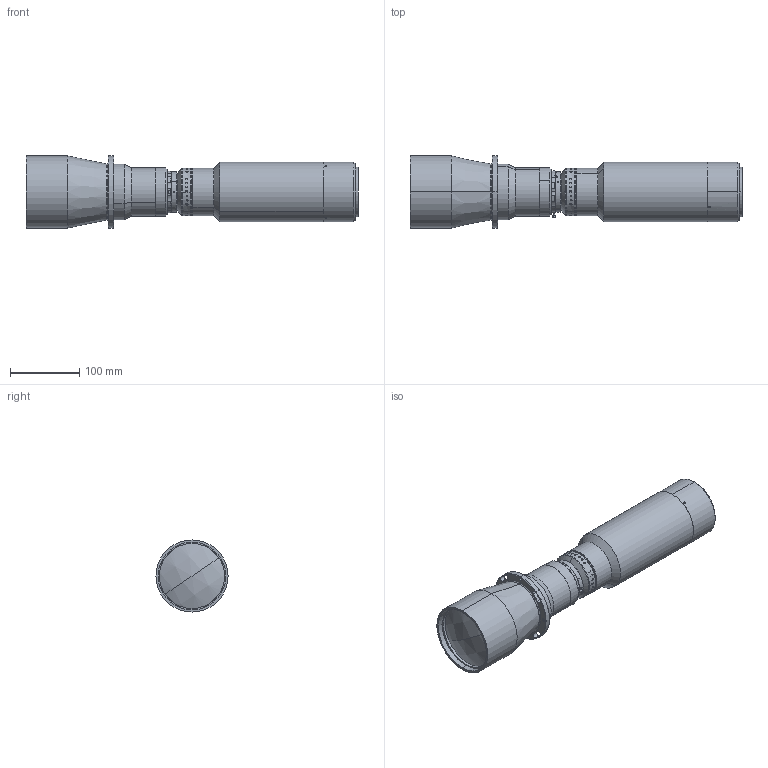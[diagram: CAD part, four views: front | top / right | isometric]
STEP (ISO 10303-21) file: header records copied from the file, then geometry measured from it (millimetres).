
FILE_DESCRIPTION (( 'STEP AP203' ), '1' );
FILE_NAME ('XF-PTL08062-M72-11.48-VI.STEP', '2020-05-09T02:30:55', ( 'puyufan' ), ( '' ), 'SwSTEP 2.0', 'SolidWorks 2014', '' );
FILE_SCHEMA (( 'CONFIG_CONTROL_DESIGN' ));
Length unit declared in the file: millimetre
Products named in the file (1): XF-PTL08062-M72-11.48-VI
Bounding box: 479.06 x 104 x 104 mm (x, y, z)
Surface area: 178812.3 mm2 (no closed solid volume)
Topology: 0 solids, 69 shells, 276 faces, 1872 edges, 1645 vertices
Faces by surface type: cylinder 183, plane 47, cone 34, bspline 6, torus 4, sphere 2
Entity records: 31194 total; most frequent: CARTESIAN_POINT 18081, DIRECTION 2474, ORIENTED_EDGE 2311, EDGE_CURVE 1872, VERTEX_POINT 1645, AXIS2_PLACEMENT_3D 968, CIRCLE 697, B_SPLINE_CURVE_WITH_KNOTS 637
